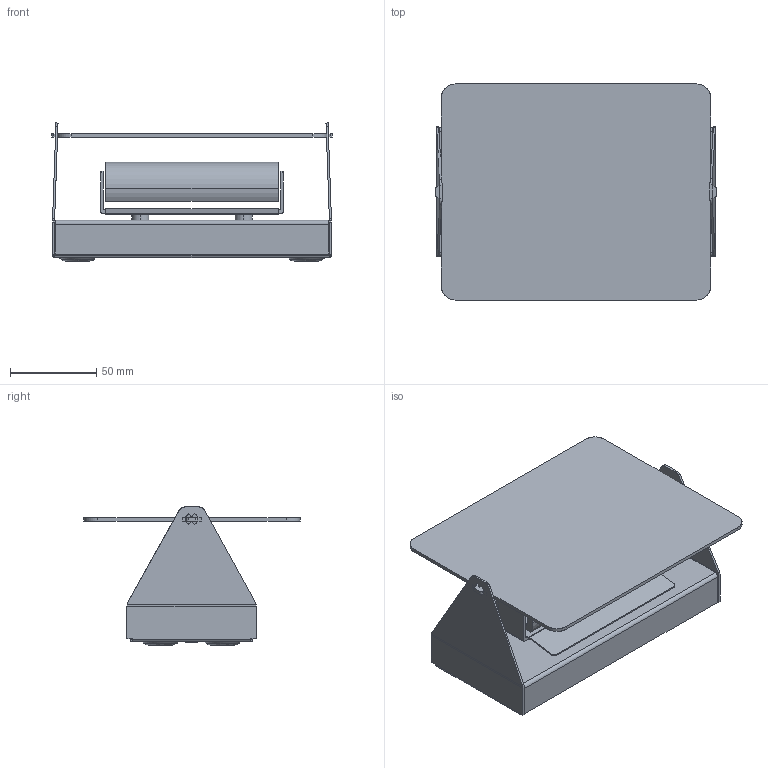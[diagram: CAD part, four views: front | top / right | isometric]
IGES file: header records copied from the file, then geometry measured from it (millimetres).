
Start section: SolidWorks IGES file using analytic representation for surfaces
Global section: file name: C:\Users\tungari.NEMOLIGHTING\Desktop\3D\WALL\Nuova cartella\3D_APPLIQUE_A_VOLET_PIVOTANT_R7s\def\3D_APPLIQUE_A_VOLET_PIVOTANT_R7s.IGS; native system: SolidWorks 2016; preprocessor: SolidWorks 2016; author: tungari; date: 180323.104840; units: millimetre
Bounding box: 162 x 125 x 79.92 mm (x, y, z)
Surface area: 159213.4 mm2 (no closed solid volume)
Topology: 0 solids, 0 shells, 283 faces, 2918 edges, 2918 vertices
Faces by surface type: bspline 177, revolution 106
